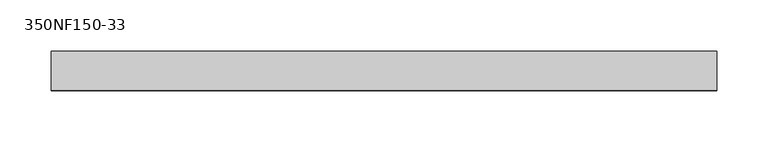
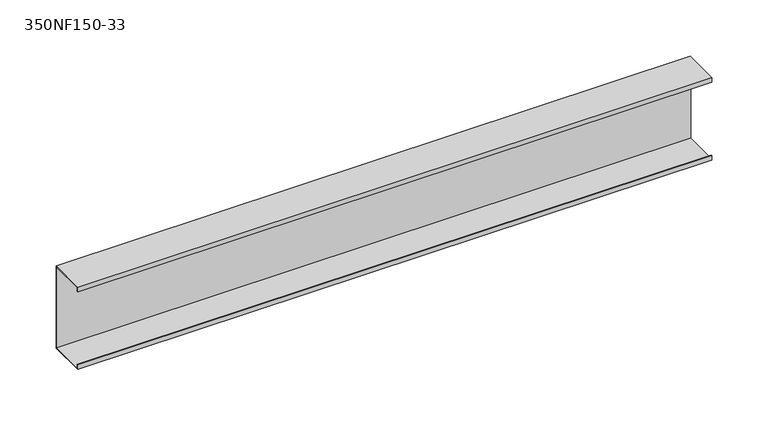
"""IFC4 building model written with IfcOpenShell, lengths in millimetres: beam geometry, BIMSF-SSMA-S : 350NF150-33."""

from ifc_helpers import new_model, si_unit, frame, origin, place, context, project, spatial, polyline, outline, extrude, source, transform, mapped, element, save


def beam_350nf150_33_a87a63be(model_context):
    return source(origin(), model_context, "Body", "SweptSolid", [
        extrude(outline(polyline([(19.05, 44.45), (19.05, -44.45), (-19.05, -44.45), (-19.05, -39.6748), (-18.1676842, -39.6748), (-18.1676842, -43.5676842), (18.1676842, -43.5676842), (18.1676842, 43.5676842), (-18.1676842, 43.5676842), (-18.1676842, 39.6748), (-19.05, 39.6748), (-19.05, 44.45), (19.05, 44.45)])), frame((-323.85, 0.0, 0.0), z_axis=(1.0, 0.0, 0.0), x_axis=(0.0, 1.0, 0.0)), (0.0, 0.0, 1.0), 647.7),
    ])


if __name__ == "__main__":
    model = new_model("IFC4")
    model_context = context("Model", 3, world=origin())
    ifc_project = project(units=[si_unit("LENGTHUNIT", "METRE", prefix="MILLI")], contexts=[model_context])
    site = spatial("IfcSite", under=ifc_project)
    building = spatial("IfcBuilding", under=site)
    placement = place(None, origin())
    beam_350nf150_33_shape = beam_350nf150_33_a87a63be(model_context)
    element("IfcBeam", 1, ObjectType="BIMSF-SSMA-S : 350NF150-33", at=placement, inside=building, context=model_context, shape_type="MappedRepresentation", body=[
        mapped(beam_350nf150_33_shape, transform((0.0, 0.0, 0.0), x_axis=(1.0, 0.0, 0.0), y_axis=(0.0, 1.0, 0.0), z_axis=(0.0, 0.0, 1.0))),
    ])
    save(model, "model.ifc")
